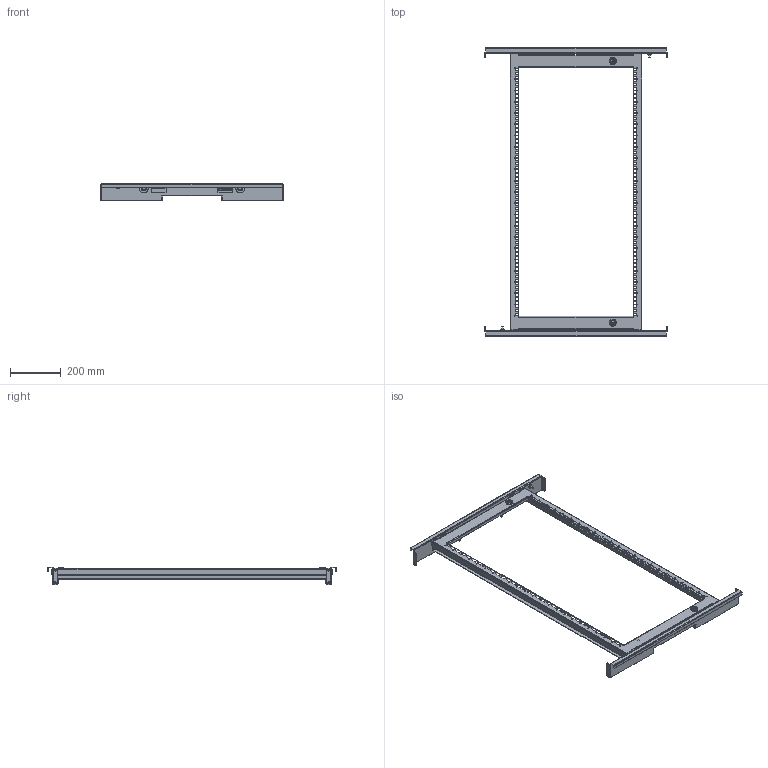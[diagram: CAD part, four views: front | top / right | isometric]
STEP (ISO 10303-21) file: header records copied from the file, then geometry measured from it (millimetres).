
FILE_DESCRIPTION (( 'STEP AP203' ), '1' );
FILE_NAME ('MC 120.80 IR Ðàìà 19'''' ïîâîðîòíàÿ.STEP', '2013-01-15T13:35:00', ( 'System' ), ( '' ), 'SwSTEP 2.0', 'SolidWorks 2012', '' );
FILE_SCHEMA (( 'CONFIG_CONTROL_DESIGN' ));
Products named in the file (1): MC 120.80 IR Ðàìà 19'''' ïîâîðîòíàÿ
Bounding box: 720.5 x 1138 x 68.85 mm (x, y, z)
Surface area: 969254.6 mm2 (no closed solid volume)
Topology: 0 solids, 29 shells, 3176 faces, 8788 edges, 5678 vertices
Faces by surface type: plane 1846, cylinder 1130, bspline 104, cone 74, torus 22
Entity records: 109854 total; most frequent: CARTESIAN_POINT 26731, ORIENTED_EDGE 17536, DIRECTION 17178, EDGE_CURVE 8772, LINE 5868, VECTOR 5868, VERTEX_POINT 5678, AXIS2_PLACEMENT_3D 5655
